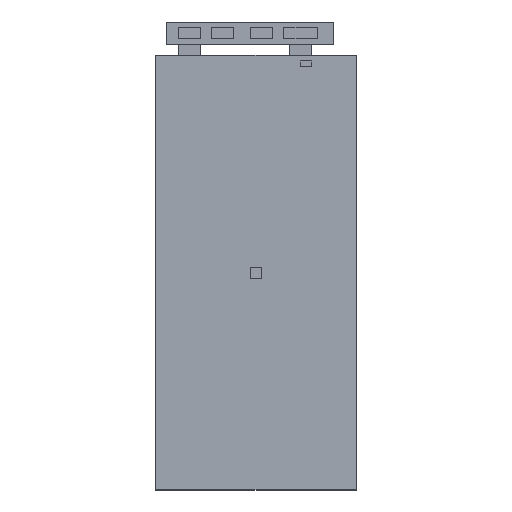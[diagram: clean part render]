
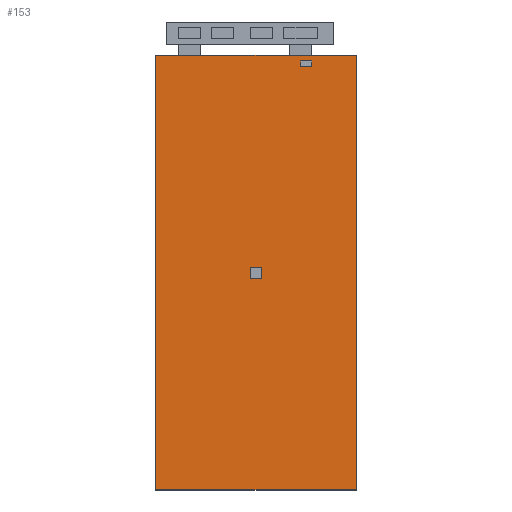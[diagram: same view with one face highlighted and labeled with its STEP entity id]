
A CAD part, top view. The second image highlights one B-rep face of the part: STEP entity #153.
In plain terms, the highlighted planar face has unit normal (0, 0, 1).
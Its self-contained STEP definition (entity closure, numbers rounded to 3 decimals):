
#24 = VERTEX_POINT('',#25);
#25 = CARTESIAN_POINT('',(6.,27.,6.2));
#40 = VERTEX_POINT('',#41);
#41 = CARTESIAN_POINT('',(6.,105.,6.2));
#47 = EDGE_CURVE('',#24,#40,#48,.T.);
#48 = LINE('',#49,#50);
#49 = CARTESIAN_POINT('',(6.,27.,6.2));
#50 = VECTOR('',#51,1.);
#51 = DIRECTION('',(0.,1.,0.));
#64 = VERTEX_POINT('',#65);
#65 = CARTESIAN_POINT('',(42.,27.,6.2));
#80 = VERTEX_POINT('',#81);
#81 = CARTESIAN_POINT('',(42.,105.,6.2));
#87 = EDGE_CURVE('',#64,#80,#88,.T.);
#88 = LINE('',#89,#90);
#89 = CARTESIAN_POINT('',(42.,27.,6.2));
#90 = VECTOR('',#91,1.);
#91 = DIRECTION('',(0.,1.,0.));
#108 = EDGE_CURVE('',#24,#64,#109,.T.);
#109 = LINE('',#110,#111);
#110 = CARTESIAN_POINT('',(6.,27.,6.2));
#111 = VECTOR('',#112,1.);
#112 = DIRECTION('',(1.,0.,0.));
#130 = EDGE_CURVE('',#40,#80,#131,.T.);
#131 = LINE('',#132,#133);
#132 = CARTESIAN_POINT('',(6.,105.,6.2));
#133 = VECTOR('',#134,1.);
#134 = DIRECTION('',(1.,0.,0.));
#153 = ADVANCED_FACE('',(#154),#160,.T.);
#154 = FACE_BOUND('',#155,.T.);
#155 = EDGE_LOOP('',(#156,#157,#158,#159));
#156 = ORIENTED_EDGE('',*,*,#47,.F.);
#157 = ORIENTED_EDGE('',*,*,#108,.T.);
#158 = ORIENTED_EDGE('',*,*,#87,.T.);
#159 = ORIENTED_EDGE('',*,*,#130,.F.);
#160 = PLANE('',#161);
#161 = AXIS2_PLACEMENT_3D('',#162,#163,#164);
#162 = CARTESIAN_POINT('',(6.,27.,6.2));
#163 = DIRECTION('',(0.,0.,1.));
#164 = DIRECTION('',(1.,0.,0.));
